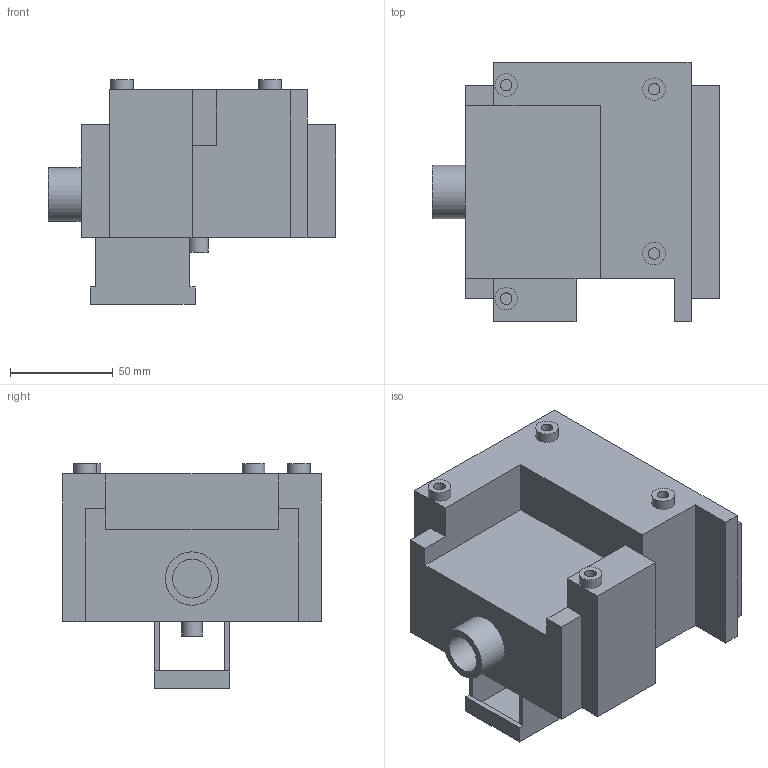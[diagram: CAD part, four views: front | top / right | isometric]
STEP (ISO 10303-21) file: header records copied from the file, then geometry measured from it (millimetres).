
FILE_DESCRIPTION(('Open CASCADE Model'),'2;1');
FILE_NAME('Open CASCADE Shape Model','2026-10-13T15:24:30',('Author'),( 'Open CASCADE'),'Open CASCADE STEP processor 8.0','build123d', 'Unknown');
FILE_SCHEMA(('AUTOMOTIVE_DESIGN { 1 0 10303 214 1 1 1 1 }'));
Length unit declared in the file: millimetre
Products named in the file (1): COMPOUND
Bounding box: 140 x 126 x 109.5 mm (x, y, z)
Volume: 213735.7 mm3; surface area: 174678.1 mm2
Topology: 1 solids, 1 shells, 227 faces, 670 edges, 445 vertices
Faces by surface type: plane 206, cylinder 21
Full cylindrical faces by diameter (mm): 4.2 x1, 5.6 x4, 6 x1, 10 x1, 11 x4, 19 x1, 26 x1
Entity records: 15414 total; most frequent: CARTESIAN_POINT 3533, DIRECTION 1688, ORIENTED_EDGE 1340, PCURVE 1340, DEFINITIONAL_REPRESENTATION 1340, LINE 1112, VECTOR 1112, B_SPLINE_CURVE_WITH_KNOTS 814
